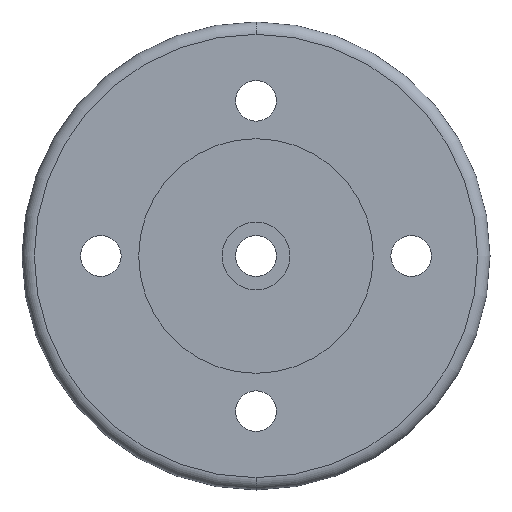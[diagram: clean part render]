
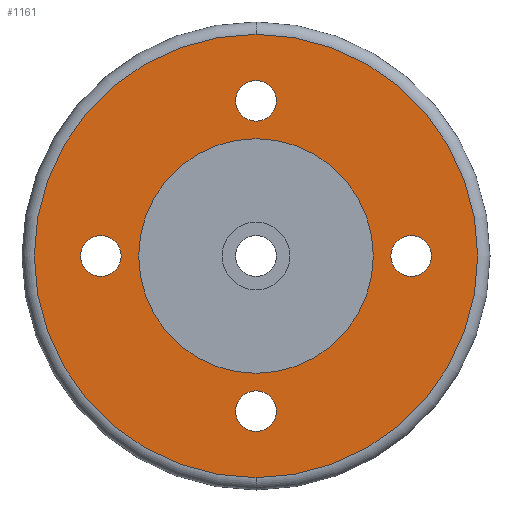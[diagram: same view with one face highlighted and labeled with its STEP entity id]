
A CAD part, front view. The second image highlights one B-rep face of the part: STEP entity #1161.
In plain terms, the highlighted planar face has unit normal (0, -1, 0).
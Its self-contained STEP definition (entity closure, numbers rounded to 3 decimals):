
#8 = AXIS2_PLACEMENT_3D ( 'NONE', #825, #118, #614 ) ;
#24 = CIRCLE ( 'NONE', #8, 3.3 ) ;
#34 = ORIENTED_EDGE ( 'NONE', *, *, #584, .T. ) ;
#36 = DIRECTION ( 'NONE',  ( 0., 1., 0. ) ) ;
#40 = CIRCLE ( 'NONE', #694, 3.3 ) ;
#71 = CARTESIAN_POINT ( 'NONE',  ( -25.2, -8., 3.3 ) ) ;
#84 = ORIENTED_EDGE ( 'NONE', *, *, #375, .T. ) ;
#93 = AXIS2_PLACEMENT_3D ( 'NONE', #333, #243, #971 ) ;
#96 = AXIS2_PLACEMENT_3D ( 'NONE', #276, #843, #463 ) ;
#110 = DIRECTION ( 'NONE',  ( 0., 0., 1. ) ) ;
#118 = DIRECTION ( 'NONE',  ( 0., 1., 0. ) ) ;
#128 = ORIENTED_EDGE ( 'NONE', *, *, #774, .T. ) ;
#129 = CARTESIAN_POINT ( 'NONE',  ( 25.2, -8., 3.3 ) ) ;
#133 = FACE_BOUND ( 'NONE', #288, .T. ) ;
#155 = CARTESIAN_POINT ( 'NONE',  ( 0., -8., 36. ) ) ;
#159 = DIRECTION ( 'NONE',  ( 0., 1., 0. ) ) ;
#180 = VERTEX_POINT ( 'NONE', #1104 ) ;
#182 = CARTESIAN_POINT ( 'NONE',  ( 0., -8., 0. ) ) ;
#191 = VERTEX_POINT ( 'NONE', #917 ) ;
#195 = ORIENTED_EDGE ( 'NONE', *, *, #489, .T. ) ;
#209 = CIRCLE ( 'NONE', #502, 3.3 ) ;
#221 = EDGE_CURVE ( 'NONE', #391, #511, #535, .T. ) ;
#243 = DIRECTION ( 'NONE',  ( 0., 1., 0. ) ) ;
#254 = ORIENTED_EDGE ( 'NONE', *, *, #1039, .T. ) ;
#255 = AXIS2_PLACEMENT_3D ( 'NONE', #734, #877, #414 ) ;
#264 = CARTESIAN_POINT ( 'NONE',  ( 0., -8., 0. ) ) ;
#265 = EDGE_CURVE ( 'NONE', #1005, #582, #1001, .T. ) ;
#276 = CARTESIAN_POINT ( 'NONE',  ( 0., -8., -25.2 ) ) ;
#288 = EDGE_LOOP ( 'NONE', ( #128, #364 ) ) ;
#304 = DIRECTION ( 'NONE',  ( 0., 1., 0. ) ) ;
#333 = CARTESIAN_POINT ( 'NONE',  ( 0., -8., 0. ) ) ;
#335 = FACE_BOUND ( 'NONE', #1165, .T. ) ;
#348 = DIRECTION ( 'NONE',  ( 0., -1., 0. ) ) ;
#352 = EDGE_CURVE ( 'NONE', #781, #952, #1019, .T. ) ;
#364 = ORIENTED_EDGE ( 'NONE', *, *, #1077, .T. ) ;
#375 = EDGE_CURVE ( 'NONE', #952, #781, #24, .T. ) ;
#377 = AXIS2_PLACEMENT_3D ( 'NONE', #1152, #929, #1197 ) ;
#384 = AXIS2_PLACEMENT_3D ( 'NONE', #182, #927, #751 ) ;
#388 = DIRECTION ( 'NONE',  ( 0., 0., 1. ) ) ;
#391 = VERTEX_POINT ( 'NONE', #932 ) ;
#407 = DIRECTION ( 'NONE',  ( 0., 0., 1. ) ) ;
#414 = DIRECTION ( 'NONE',  ( 0., 0., 1. ) ) ;
#427 = CARTESIAN_POINT ( 'NONE',  ( 0., -8., 19.05 ) ) ;
#433 = DIRECTION ( 'NONE',  ( 0., 1., 0. ) ) ;
#463 = DIRECTION ( 'NONE',  ( 0., 0., 1. ) ) ;
#489 = EDGE_CURVE ( 'NONE', #582, #1005, #209, .T. ) ;
#502 = AXIS2_PLACEMENT_3D ( 'NONE', #1102, #433, #407 ) ;
#511 = VERTEX_POINT ( 'NONE', #155 ) ;
#519 = VERTEX_POINT ( 'NONE', #71 ) ;
#521 = CARTESIAN_POINT ( 'NONE',  ( 0., -8., 28.5 ) ) ;
#535 = CIRCLE ( 'NONE', #795, 36. ) ;
#543 = EDGE_CURVE ( 'NONE', #607, #821, #824, .T. ) ;
#545 = DIRECTION ( 'NONE',  ( 0., 0., 1. ) ) ;
#567 = CARTESIAN_POINT ( 'NONE',  ( 25.2, -8., 0. ) ) ;
#572 = DIRECTION ( 'NONE',  ( 0., 0., 1. ) ) ;
#582 = VERTEX_POINT ( 'NONE', #629 ) ;
#584 = EDGE_CURVE ( 'NONE', #191, #180, #40, .T. ) ;
#597 = CARTESIAN_POINT ( 'NONE',  ( 0., -8., 21.9 ) ) ;
#598 = FACE_BOUND ( 'NONE', #766, .T. ) ;
#607 = VERTEX_POINT ( 'NONE', #427 ) ;
#614 = DIRECTION ( 'NONE',  ( 0., 0., 1. ) ) ;
#617 = ORIENTED_EDGE ( 'NONE', *, *, #874, .T. ) ;
#619 = AXIS2_PLACEMENT_3D ( 'NONE', #264, #36, #388 ) ;
#623 = EDGE_LOOP ( 'NONE', ( #254, #1012 ) ) ;
#629 = CARTESIAN_POINT ( 'NONE',  ( 25.2, -8., -3.3 ) ) ;
#630 = CARTESIAN_POINT ( 'NONE',  ( -25.2, -8., 0. ) ) ;
#633 = FACE_BOUND ( 'NONE', #1205, .T. ) ;
#647 = CARTESIAN_POINT ( 'NONE',  ( -25.2, -8., -3.3 ) ) ;
#694 = AXIS2_PLACEMENT_3D ( 'NONE', #1016, #304, #110 ) ;
#698 = FACE_BOUND ( 'NONE', #747, .T. ) ;
#730 = CARTESIAN_POINT ( 'NONE',  ( -25.2, -8., 0. ) ) ;
#734 = CARTESIAN_POINT ( 'NONE',  ( 0., -8., 25.2 ) ) ;
#736 = AXIS2_PLACEMENT_3D ( 'NONE', #730, #159, #915 ) ;
#747 = EDGE_LOOP ( 'NONE', ( #34, #617 ) ) ;
#751 = DIRECTION ( 'NONE',  ( 0., 0., 1. ) ) ;
#766 = EDGE_LOOP ( 'NONE', ( #1160, #815 ) ) ;
#774 = EDGE_CURVE ( 'NONE', #519, #983, #1028, .T. ) ;
#781 = VERTEX_POINT ( 'NONE', #597 ) ;
#787 = DIRECTION ( 'NONE',  ( 0., 1., 0. ) ) ;
#795 = AXIS2_PLACEMENT_3D ( 'NONE', #865, #348, #545 ) ;
#815 = ORIENTED_EDGE ( 'NONE', *, *, #543, .T. ) ;
#821 = VERTEX_POINT ( 'NONE', #1060 ) ;
#824 = CIRCLE ( 'NONE', #377, 19.05 ) ;
#825 = CARTESIAN_POINT ( 'NONE',  ( 0., -8., 25.2 ) ) ;
#833 = ORIENTED_EDGE ( 'NONE', *, *, #352, .T. ) ;
#843 = DIRECTION ( 'NONE',  ( 0., 1., 0. ) ) ;
#865 = CARTESIAN_POINT ( 'NONE',  ( 0., -8., 0. ) ) ;
#874 = EDGE_CURVE ( 'NONE', #180, #191, #909, .T. ) ;
#877 = DIRECTION ( 'NONE',  ( 0., 1., 0. ) ) ;
#883 = DIRECTION ( 'NONE',  ( 0., 1., 0. ) ) ;
#909 = CIRCLE ( 'NONE', #96, 3.3 ) ;
#915 = DIRECTION ( 'NONE',  ( 0., 0., 1. ) ) ;
#917 = CARTESIAN_POINT ( 'NONE',  ( 0., -8., -21.9 ) ) ;
#927 = DIRECTION ( 'NONE',  ( 0., -1., 0. ) ) ;
#929 = DIRECTION ( 'NONE',  ( 0., 1., 0. ) ) ;
#932 = CARTESIAN_POINT ( 'NONE',  ( 0., -8., -36. ) ) ;
#938 = CIRCLE ( 'NONE', #619, 19.05 ) ;
#952 = VERTEX_POINT ( 'NONE', #521 ) ;
#962 = DIRECTION ( 'NONE',  ( 0., 0., 1. ) ) ;
#971 = DIRECTION ( 'NONE',  ( 0., 0., 1. ) ) ;
#975 = CIRCLE ( 'NONE', #736, 3.3 ) ;
#983 = VERTEX_POINT ( 'NONE', #647 ) ;
#984 = EDGE_CURVE ( 'NONE', #821, #607, #938, .T. ) ;
#1001 = CIRCLE ( 'NONE', #1034, 3.3 ) ;
#1002 = PLANE ( 'NONE',  #93 ) ;
#1005 = VERTEX_POINT ( 'NONE', #129 ) ;
#1012 = ORIENTED_EDGE ( 'NONE', *, *, #221, .T. ) ;
#1016 = CARTESIAN_POINT ( 'NONE',  ( 0., -8., -25.2 ) ) ;
#1019 = CIRCLE ( 'NONE', #255, 3.3 ) ;
#1028 = CIRCLE ( 'NONE', #1061, 3.3 ) ;
#1034 = AXIS2_PLACEMENT_3D ( 'NONE', #567, #883, #572 ) ;
#1039 = EDGE_CURVE ( 'NONE', #511, #391, #1122, .T. ) ;
#1053 = FACE_OUTER_BOUND ( 'NONE', #623, .T. ) ;
#1057 = ORIENTED_EDGE ( 'NONE', *, *, #265, .T. ) ;
#1060 = CARTESIAN_POINT ( 'NONE',  ( 0., -8., -19.05 ) ) ;
#1061 = AXIS2_PLACEMENT_3D ( 'NONE', #630, #787, #962 ) ;
#1077 = EDGE_CURVE ( 'NONE', #983, #519, #975, .T. ) ;
#1102 = CARTESIAN_POINT ( 'NONE',  ( 25.2, -8., 0. ) ) ;
#1104 = CARTESIAN_POINT ( 'NONE',  ( 0., -8., -28.5 ) ) ;
#1122 = CIRCLE ( 'NONE', #384, 36. ) ;
#1152 = CARTESIAN_POINT ( 'NONE',  ( 0., -8., 0. ) ) ;
#1160 = ORIENTED_EDGE ( 'NONE', *, *, #984, .T. ) ;
#1161 = ADVANCED_FACE ( 'NONE', ( #1053, #698, #133, #633, #335, #598 ), #1002, .F. ) ;
#1165 = EDGE_LOOP ( 'NONE', ( #84, #833 ) ) ;
#1197 = DIRECTION ( 'NONE',  ( 0., 0., 1. ) ) ;
#1205 = EDGE_LOOP ( 'NONE', ( #1057, #195 ) ) ;
